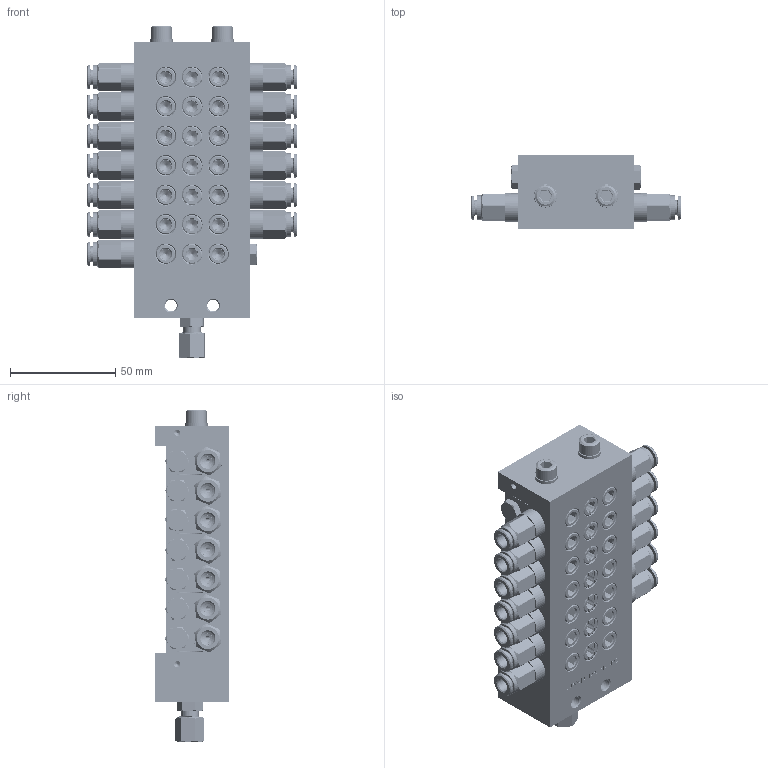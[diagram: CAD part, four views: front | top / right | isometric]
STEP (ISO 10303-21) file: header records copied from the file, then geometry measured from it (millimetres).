
FILE_DESCRIPTION (( 'STEP AP214' ), '1' );
FILE_NAME ('STW_XV_0143_13_0502_13_Auslässe.STEP', '2026-02-04T10:36:24', ( '' ), ( '' ), 'SwSTEP 2.0', 'SolidWorks 2022', '' );
FILE_SCHEMA (( 'AUTOMOTIVE_DESIGN' ));
Length unit declared in the file: millimetre
Products named in the file (19): STW_XV_0143_13_0502_13_Auslässe; U_Scheibe_6; 991214010601_Schneidring; XV_Mittelelement; STW_XV_ENGANG; Verschlussstopfen_1_8; 991214010601_Mutter; STW_XV_MITTEL_1; STW_XV_END; STW_XV_Kolbenanschlag; RIVOLUZIONE_0_2; Verschlussstopfen_1_8_2; 991214010601_Koerper; M6X65_DIN_912; 991214010601; DR6-C_HDX_25.07.16_1; STW_XV_Verbindungsstopen; OR 7.66X1.78_1; H200139_HDS01_6_M10X1_08.05.17
Assembly tree (55 placements, depth 3):
  STW_XV_0143_13_0502_13_Auslässe
    STW_XV_ENGANG
    STW_XV_MITTEL_1  x3
    STW_XV_END
    Verschlussstopfen_1_8_2  x6
    STW_XV_Kolbenanschlag  x6
    STW_XV_Verbindungsstopen  x3
    M6X65_DIN_912  x2
    U_Scheibe_6  x2
    991214010601
      991214010601_Koerper
      991214010601_Schneidring
      991214010601_Mutter
    XV_Mittelelement  x4
      STW_XV_MITTEL_1
      STW_XV_Kolbenanschlag
      Verschlussstopfen_1_8_2
      STW_XV_Verbindungsstopen
    H200139_HDS01_6_M10X1_08.05.17  x13
      OR 7.66X1.78_1
      DR6-C_HDX_25.07.16_1
      RIVOLUZIONE_0_2
    Verschlussstopfen_1_8
Bounding box: 99.6 x 35 x 157.68 mm (x, y, z)
Volume: 236749.2 mm3; surface area: 140900.9 mm2
Topology: 91 solids, 91 shells, 3035 faces, 7858 edges, 5056 vertices
Faces by surface type: plane 1493, cylinder 742, cone 593, bspline 193, torus 14
Full cylindrical faces by diameter (mm): 2 x185, 3 x14, 4.2 x13, 4.5 x1, 5 x74, 5.5 x2, 5.9 x2, 6 x3, 6.2 x30, 6.3 x13, 6.4 x2, 6.5 x14, 7 x14, 7.2 x13, 7.4 x1, 7.67 x1, 8 x15, 8.3 x1, 8.4 x7, 8.5 x13, 8.6 x35, 9 x16, 9.7 x15, 9.73 x7, 9.8 x7, 9.9 x13, 10 x42, 10.3 x13, 11 x2, 11.5 x13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
Entity records: 45640 total; most frequent: CARTESIAN_POINT 22447, ORIENTED_EDGE 3064, DIRECTION 2713, EDGE_CURVE 1532, VERTEX_POINT 1095, EDGE_LOOP 1035, AXIS2_PLACEMENT_3D 974, FACE_OUTER_BOUND 832
